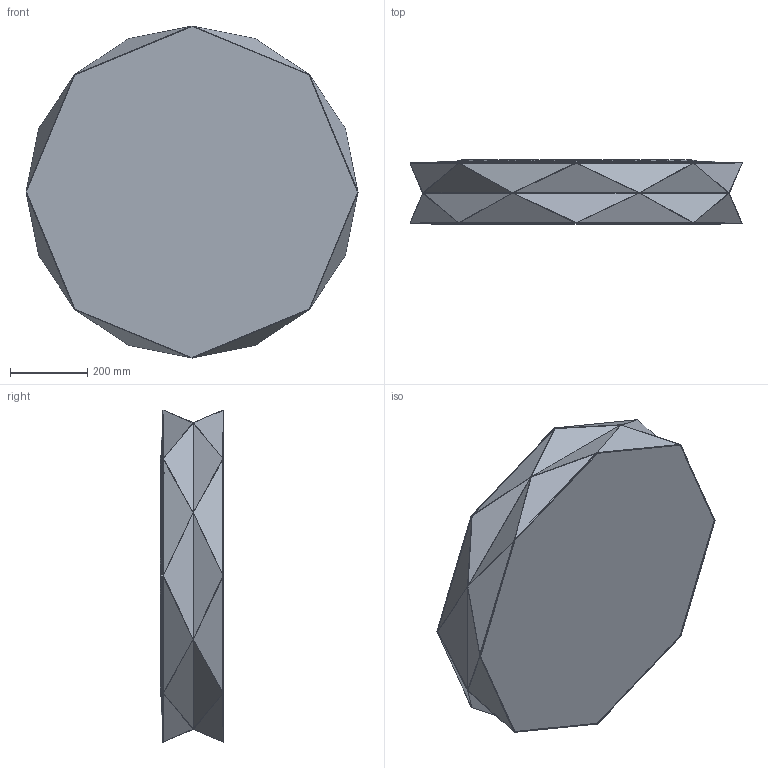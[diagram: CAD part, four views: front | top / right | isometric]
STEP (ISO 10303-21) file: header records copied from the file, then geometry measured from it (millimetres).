
FILE_DESCRIPTION(/* description */ (''),/* implementation_level */ '2;1');
FILE_NAME(/* name */ 'C:/Users/kubaw/OneDrive/Pulpit/3D/JAKUB_WIECZORKOWSKI_MAJ_PACZKA/OK/4225_KANTOOR v4.step',/* time_stamp */ '2021-06-25T21:08:47+02:00',/* author */ (''),/* organization */ (''),/* preprocessor_version */ 'ST-DEVELOPER v18.1',/* originating_system */ 'Autodesk Translation Framework v10.9.0.1377',/* authorisation */ '');
FILE_SCHEMA (('AUTOMOTIVE_DESIGN { 1 0 10303 214 3 1 1 }'));
Length unit declared in the file: millimetre
Products named in the file (2): 4225_KANTOOR; POKRYWA_KANTOR_4225
Assembly tree (1 placements, depth 2):
  4225_KANTOOR
    POKRYWA_KANTOR_4225
Bounding box: 860 x 165.56 x 860 mm (x, y, z)
Volume: 1884092.4 mm3; surface area: 2832592.7 mm2
Topology: 19 solids, 19 shells, 279 faces, 581 edges, 339 vertices
Faces by surface type: plane 229, bspline 32, cylinder 17, torus 1
Full cylindrical faces by diameter (mm): 3 x3, 23.607 x3, 39 x3, 40 x3, 45 x3, 717.639 x1, 720 x1
Entity records: 8508 total; most frequent: CARTESIAN_POINT 2592, DIRECTION 1179, ORIENTED_EDGE 1162, EDGE_CURVE 581, LINE 483, VECTOR 483, AXIS2_PLACEMENT_3D 348, VERTEX_POINT 339
